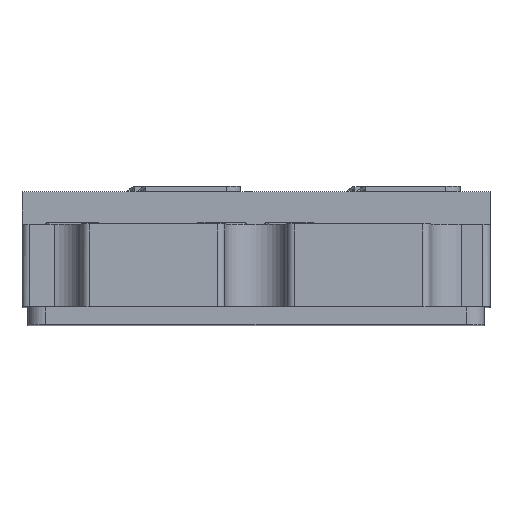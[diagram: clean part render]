
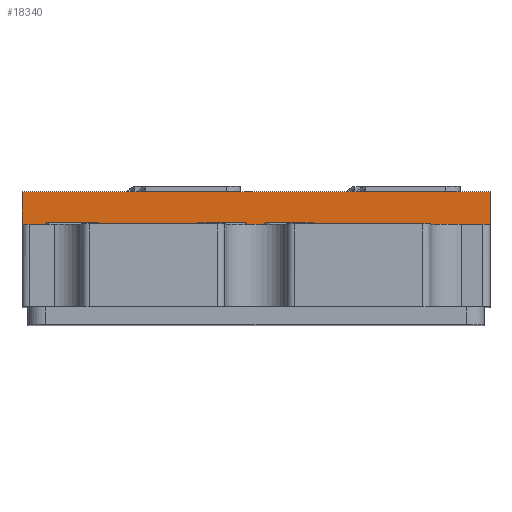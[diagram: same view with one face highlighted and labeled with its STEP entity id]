
A CAD part, top view. The second image highlights one B-rep face of the part: STEP entity #18340.
In plain terms, the highlighted planar face has unit normal (0, 0, 1).
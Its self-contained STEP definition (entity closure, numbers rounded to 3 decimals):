
#336 = EDGE_CURVE ( 'NONE', #17149, #17115, #21410, .T. ) ;
#4205 = DIRECTION ( 'NONE',  ( 1., 0., 0. ) ) ;
#4206 = VECTOR ( 'NONE', #4205, 1000. ) ;
#4207 = CARTESIAN_POINT ( 'NONE',  ( 265.271, 12., -404.761 ) ) ;
#4219 = LINE ( 'NONE', #4207, #4206 ) ;
#4267 = FACE_OUTER_BOUND ( 'NONE', #18306, .T. ) ;
#4331 = PLANE ( 'NONE',  #4350 ) ;
#4350 = AXIS2_PLACEMENT_3D ( 'NONE', #4371, #4370, #4369 ) ;
#4369 = DIRECTION ( 'NONE',  ( 1., 0., 0. ) ) ;
#4370 = DIRECTION ( 'NONE',  ( 0., 0., 1. ) ) ;
#4371 = CARTESIAN_POINT ( 'NONE',  ( 265.271, 12., -404.761 ) ) ;
#17107 = EDGE_CURVE ( 'NONE', #17111, #17115, #25719, .T. ) ;
#17111 = VERTEX_POINT ( 'NONE', #25754 ) ;
#17115 = VERTEX_POINT ( 'NONE', #25737 ) ;
#17149 = VERTEX_POINT ( 'NONE', #25788 ) ;
#17153 = VERTEX_POINT ( 'NONE', #25813 ) ;
#17154 = EDGE_CURVE ( 'NONE', #17149, #17153, #25796, .T. ) ;
#18280 = EDGE_CURVE ( 'NONE', #17111, #17153, #4219, .T. ) ;
#18306 = EDGE_LOOP ( 'NONE', ( #18342, #18355, #18341, #18343 ) ) ;
#18340 = ADVANCED_FACE ( 'NONE', ( #4267 ), #4331, .T. ) ;
#18341 = ORIENTED_EDGE ( 'NONE', *, *, #17154, .T. ) ;
#18342 = ORIENTED_EDGE ( 'NONE', *, *, #17107, .T. ) ;
#18343 = ORIENTED_EDGE ( 'NONE', *, *, #18280, .F. ) ;
#18355 = ORIENTED_EDGE ( 'NONE', *, *, #336, .F. ) ;
#21409 = CARTESIAN_POINT ( 'NONE',  ( 246.571, 3., -404.761 ) ) ;
#21410 = LINE ( 'NONE', #21409, #21423 ) ;
#21422 = DIRECTION ( 'NONE',  ( -1., 0., 0. ) ) ;
#21423 = VECTOR ( 'NONE', #21422, 1000. ) ;
#25713 = VECTOR ( 'NONE', #25756, 1000. ) ;
#25719 = LINE ( 'NONE', #25758, #25713 ) ;
#25737 = CARTESIAN_POINT ( 'NONE',  ( 135.271, 3., -404.761 ) ) ;
#25754 = CARTESIAN_POINT ( 'NONE',  ( 135.271, 12., -404.761 ) ) ;
#25756 = DIRECTION ( 'NONE',  ( 0., -1., 0. ) ) ;
#25758 = CARTESIAN_POINT ( 'NONE',  ( 135.271, 3., -404.761 ) ) ;
#25788 = CARTESIAN_POINT ( 'NONE',  ( 265.271, 3., -404.761 ) ) ;
#25793 = DIRECTION ( 'NONE',  ( 0., 1., 0. ) ) ;
#25794 = VECTOR ( 'NONE', #25793, 1000. ) ;
#25795 = CARTESIAN_POINT ( 'NONE',  ( 265.271, 3., -404.761 ) ) ;
#25796 = LINE ( 'NONE', #25795, #25794 ) ;
#25813 = CARTESIAN_POINT ( 'NONE',  ( 265.271, 12., -404.761 ) ) ;
